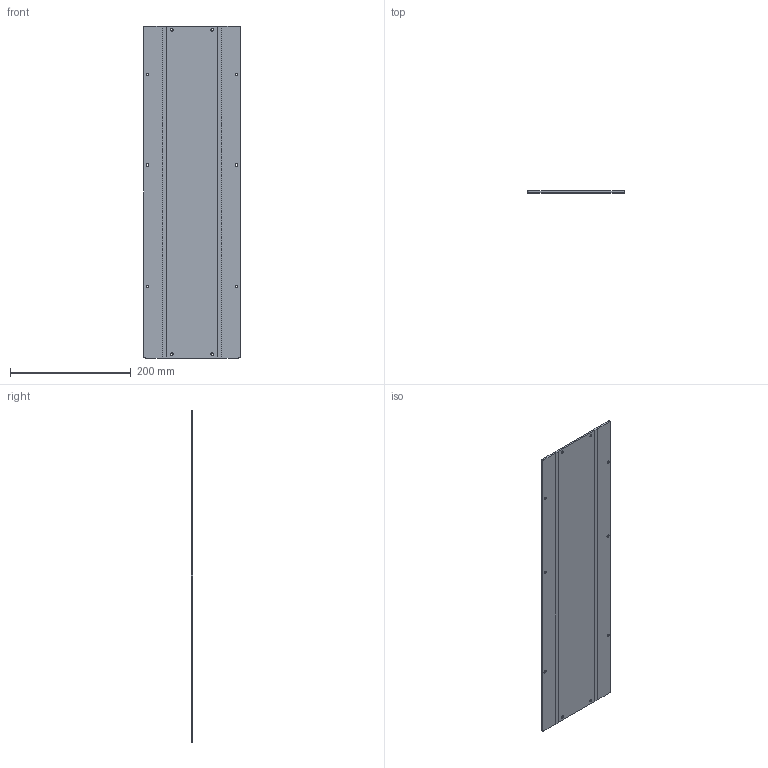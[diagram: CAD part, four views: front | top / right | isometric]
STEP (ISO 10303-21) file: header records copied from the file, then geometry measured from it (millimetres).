
FILE_DESCRIPTION(/* description */ (''),/* implementation_level */ '2;1');
FILE_NAME(/* name */ 'C:/Users/anton/Documents/Kerbal Space Program/Kerbal_Control_Panel/KCP2/CAD/STEPs/GaugeTower_BackPlate_v16_FlatPattern.step',/* time_stamp */ '2020-11-12T08:33:28-08:00',/* author */ (''),/* organization */ (''),/* preprocessor_version */ 'ST-DEVELOPER v18.1',/* originating_system */ 'Autodesk Translation Framework v9.3.0.1241',/* authorisation */ '');
FILE_SCHEMA (('AUTOMOTIVE_DESIGN { 1 0 10303 214 3 1 1 }'));
Length unit declared in the file: millimetre
Products named in the file (1): Back Plate
Bounding box: 160.57 x 3 x 551 mm (x, y, z)
Volume: 264518.8 mm3; surface area: 181184.5 mm2
Topology: 1 solids, 1 shells, 46 faces, 106 edges, 62 vertices
Faces by surface type: plane 22, cylinder 14, cone 10
Full cylindrical faces by diameter (mm): 4.496 x10
Entity records: 1382 total; most frequent: DIRECTION 238, CARTESIAN_POINT 215, ORIENTED_EDGE 212, EDGE_CURVE 106, AXIS2_PLACEMENT_3D 85, LINE 68, VECTOR 68, EDGE_LOOP 66
